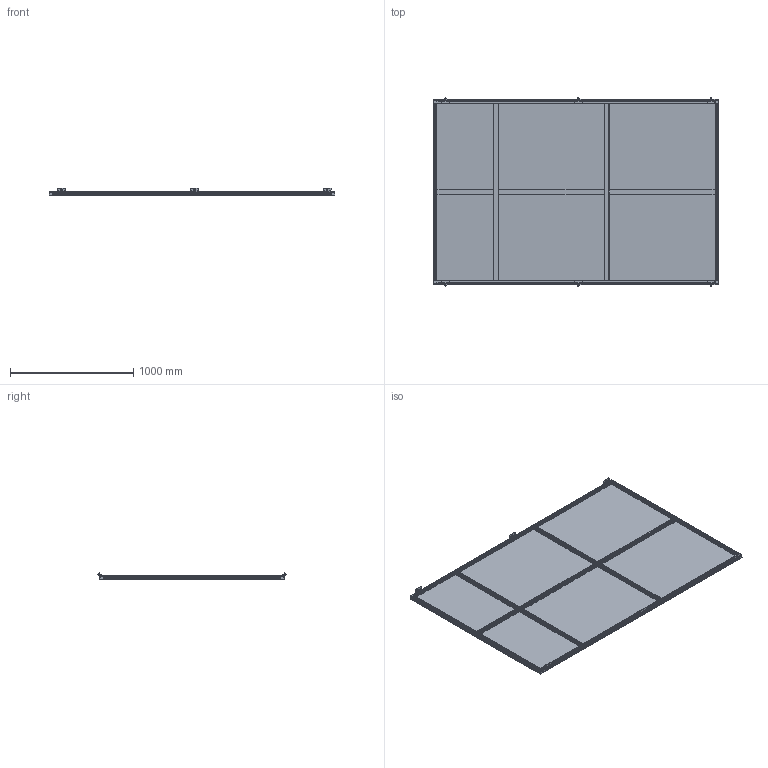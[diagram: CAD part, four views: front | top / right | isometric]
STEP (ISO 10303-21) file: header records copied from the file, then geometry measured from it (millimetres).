
FILE_DESCRIPTION(/* description */ (''),/* implementation_level */ '2;1');
FILE_NAME(/* name */ 'Z:\Marketing\fastline\Pannello H=2500.stp',/* time_stamp */ '2021-10-15T15:00:50+02:00',/* author */ ('mpistoia'),/* organization */ (''),/* preprocessor_version */ 'ST-DEVELOPER v17.2',/* originating_system */ 'Autodesk Inventor 2019',/* authorisation */ '');
FILE_SCHEMA (('AUTOMOTIVE_DESIGN { 1 0 10303 214 3 1 1 }'));
Products named in the file (1): Pannello H=2500
Bounding box: 2320 x 1534 x 58 mm (x, y, z)
Volume: 12887673.4 mm3; surface area: 9783209.2 mm2
Topology: 7 solids, 11 shells, 2721 faces, 7102 edges, 4580 vertices
Faces by surface type: plane 1641, cylinder 730, bspline 232, sphere 76, cone 30, torus 12
Full cylindrical faces by diameter (mm): 3.2 x8, 3.25 x2, 4.5 x10, 5 x12, 5.5 x6, 6 x12, 6.35 x6, 7.9 x24, 8 x12, 8.5 x6, 10 x6, 11 x10, 13 x8
Entity records: 369971 total; most frequent: CARTESIAN_POINT 302396, ORIENTED_EDGE 14168, DIRECTION 13704, EDGE_CURVE 7084, LINE 4728, VECTOR 4728, VERTEX_POINT 4574, AXIS2_PLACEMENT_3D 4488
